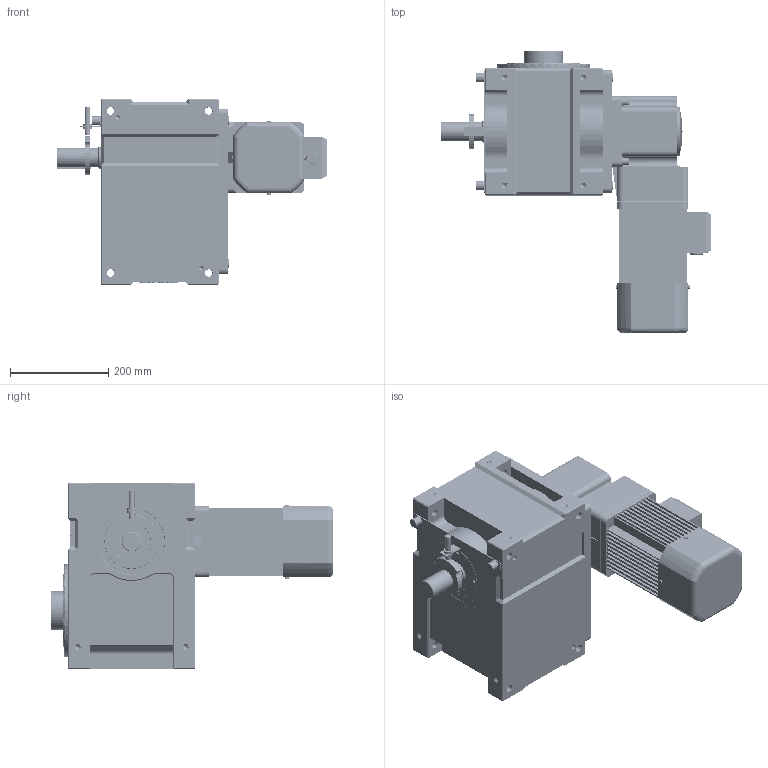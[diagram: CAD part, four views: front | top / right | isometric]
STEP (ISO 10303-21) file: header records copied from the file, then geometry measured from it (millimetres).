
FILE_DESCRIPTION (( 'STEP AP214' ), '1' );
FILE_NAME ('ER-RU140DF英锐凸轮分割器壳体法兰面销孔3D垂直直联式右侧JY(电话15062628977)AA.STEP', '2022-11-10T08:50:22', ( '微软用户' ), ( '微软中国' ), 'SwSTEP 2.0', 'SolidWorks 2017', '' );
FILE_SCHEMA (( 'AUTOMOTIVE_DESIGN' ));
Length unit declared in the file: millimetre
Products named in the file (1): ER-RU140DF英锐凸轮分割器壳体法兰面销孔3D垂直直联式右侧JY(电话15062628977)AA
Bounding box: 552 x 576 x 380 mm (x, y, z)
Volume: 32221933.8 mm3; surface area: 1334637.3 mm2
Topology: 3 solids, 10 shells, 3079 faces, 8447 edges, 5487 vertices
Faces by surface type: plane 1514, cylinder 866, bspline 500, cone 195, torus 4
Entity records: 230608 total; most frequent: CARTESIAN_POINT 125284, ORIENTED_EDGE 16766, DIRECTION 11797, EDGE_CURVE 8383, VERTEX_POINT 5487, LINE 5283, VECTOR 5283, EDGE_LOOP 3274
